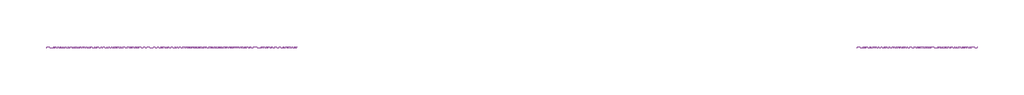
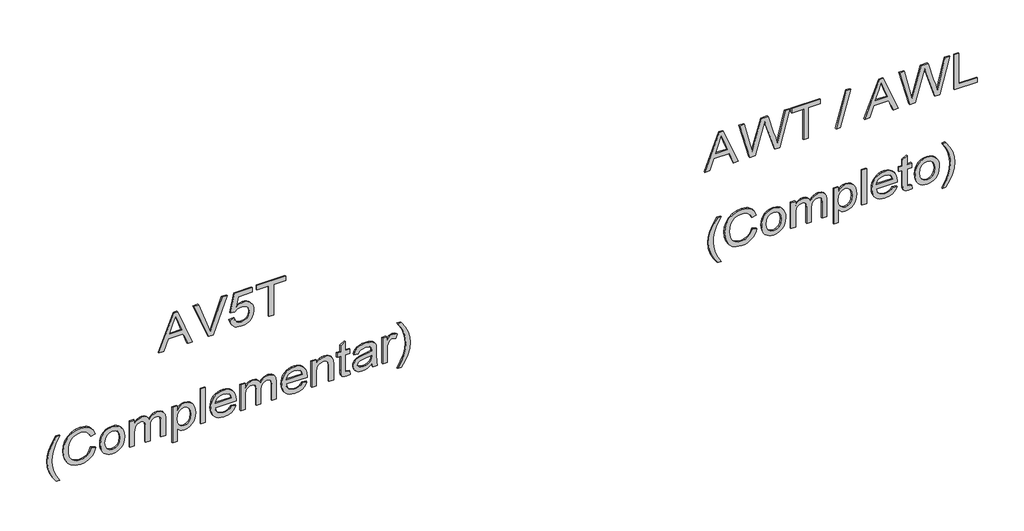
# One storey, part 13 of 14: 2 proxies.
"""IFC4 building model written with IfcOpenShell, lengths in millimetres."""

from ifc_helpers import new_model, si_unit, frame, origin, place, context, project, spatial, polyline, outline, extrude, element, save

model = new_model("IFC4")

# Units and contexts
model_context = context("Model", 3, world=origin())
ifc_project = project(units=[si_unit("LENGTHUNIT", "METRE", prefix="MILLI")], contexts=[model_context])

# Site, building, storey
site = spatial("IfcSite", under=ifc_project)
building = spatial("IfcBuilding", under=site)
storey = spatial("IfcBuildingStorey", under=building, Name="04 - Marelli - Planta Baixa - Painéis de Vidro", Elevation=36000.0)

# Proxies
placement = place(None, origin())
element("IfcBuildingElementProxy", 1, Name="300mm Arial", ObjectType="300mm Arial", at=placement, inside=storey, context=model_context, shape_type="SweptSolid", body=[
    extrude(outline(polyline([(42065.9244535, 113305.46327), (42065.9244535, 113345.2681019), (42160.1022443, 113379.7018566), (42160.1022443, 113503.8252418), (42065.9244535, 113538.3325729), (42065.9244535, 113578.1374048), (42367.293384, 113457.8399924), (42367.293384, 113425.7606824), (42065.9244535, 113305.46327)]), holes=[polyline([(42197.7733606, 113393.5342196), (42278.3395176, 113423.0383556), (42329.6222677, 113441.8003374), (42271.8647944, 113462.9167639), (42197.7733606, 113490.0664552), (42197.7733606, 113393.5342196)])]), frame((0.0, 8778.3159498, 0.0), z_axis=(0.0, 1.0, 0.0), x_axis=(0.0, 0.0, 1.0)), (0.0, 0.0, 1.0), 10.0),
    extrude(outline(polyline([(42065.9244535, 113707.4111379), (42065.9244535, 113746.333053), (42367.293384, 113861.1858119), (42367.293384, 113820.8659452), (42150.1694304, 113740.3733647), (42101.2411251, 113724.3337097), (42150.1694304, 113708.0733255), (42367.293384, 113627.8014742), (42367.293384, 113587.4816075), (42065.9244535, 113707.4111379)])), frame((0.0, 8778.3159498, 0.0), z_axis=(0.0, 1.0, 0.0), x_axis=(0.0, 0.0, 1.0)), (0.0, 0.0, 1.0), 10.0),
    extrude(outline(polyline([(42145.9755757, 113882.0815092), (42111.4222593, 113891.2693621), (42096.9805917, 113899.9950631), (42084.4289179, 113911.4752806), (42074.2730756, 113925.2731547), (42067.0189025, 113940.9518255), (42061.215564, 113977.9515572), (42063.4734397, 114001.4408226), (42070.247067, 114022.3181258), (42081.5364457, 114040.5834669), (42097.3415759, 114056.2368457), (42112.7742256, 114066.5697313), (42129.5680387, 114073.9503638), (42167.239155, 114079.8548698), (42187.5002559, 114078.2154957), (42205.8299763, 114073.2973733), (42222.2283162, 114065.1005026), (42236.6952757, 114053.6248836), (42248.5088863, 114039.7626301), (42256.9471795, 114024.4058561), (42262.0101555, 114007.5545615), (42263.6978141, 113989.2087462), (42258.2531606, 113961.0105913), (42241.9192, 113934.1000233), (42324.9133781, 113950.2132547), (42324.9133781, 114065.7282012), (42362.5844944, 114065.7282012), (42362.5844944, 113919.7526255), (42207.1911397, 113886.7903988), (42202.4822501, 113924.4615151), (42219.4783983, 113945.6147298), (42224.389623, 113960.4127831), (42226.0266978, 113978.6873212), (42221.9248136, 114006.5819734), (42209.6191609, 114026.4016159), (42190.2317797, 114038.2382191), (42164.8847102, 114042.1837535), (42137.9649452, 114037.9715047), (42116.9496863, 114025.3347582), (42103.4024318, 114005.1012484), (42098.8866803, 113978.09871), (42102.1332389, 113955.8970316), (42111.8729147, 113938.7353365), (42128.0689196, 113926.668807), (42150.6844652, 113919.7526255), (42145.9755757, 113882.0815092)])), frame((0.0, 8778.3159498, 0.0), z_axis=(0.0, 1.0, 0.0), x_axis=(0.0, 0.0, 1.0)), (0.0, 0.0, 1.0), 10.0),
    extrude(outline(polyline([(42065.9244535, 114202.2859978), (42065.9244535, 114239.9571141), (42329.6222677, 114239.9571141), (42329.6222677, 114338.8437944), (42367.293384, 114338.8437944), (42367.293384, 114103.3993175), (42329.6222677, 114103.3993175), (42329.6222677, 114202.2859978), (42065.9244535, 114202.2859978)])), frame((0.0, 8778.3159498, 0.0), z_axis=(0.0, 1.0, 0.0), x_axis=(0.0, 0.0, 1.0)), (0.0, 0.0, 1.0), 10.0),
    extrude(outline(polyline([(41249.3155348, 112469.4146478), (41249.3155348, 112497.667985), (41297.5540614, 112468.8260366), (41345.8109821, 112448.2246448), (41394.0862969, 112435.8638098), (41442.3800058, 112431.7435314), (41480.2534572, 112434.1163703), (41517.9429677, 112441.2348869), (41575.7740173, 112462.4248898), (41635.4444769, 112497.667985), (41635.4444769, 112469.4146478), (41584.934279, 112434.7233756), (41534.2033518, 112410.4063757), (41489.4137189, 112398.1559053), (41442.600735, 112394.0724151), (41389.2210575, 112399.5354628), (41337.68079, 112415.9246057), (41290.2791949, 112440.2232114), (41249.3155348, 112469.4146478)])), frame((0.0, 8778.3159498, 0.0), z_axis=(0.0, 1.0, 0.0), x_axis=(0.0, 0.0, 1.0)), (0.0, 0.0, 1.0), 10.0),
    extrude(outline(polyline([(41441.2027835, 112751.94802), (41408.9395325, 112739.761929), (41385.7261786, 112719.9790747), (41371.7098746, 112693.7766796), (41367.0377732, 112662.331966), (41370.4682728, 112635.3570187), (41380.7597717, 112610.3502401), (41397.9858461, 112589.491331), (41422.2200725, 112574.9599922), (41452.3128197, 112566.4343269), (41487.1144565, 112563.5924385), (41515.5333406, 112565.9928685), (41543.1060961, 112573.1941586), (41567.4966724, 112586.3183488), (41586.3690188, 112606.4874792), (41598.4539423, 112633.0669533), (41602.4822501, 112665.4221748), (41598.8494154, 112693.491571), (41587.9509113, 112716.3370429), (41569.1061561, 112734.1793197), (41541.6345681, 112747.2391305), (41550.6108888, 112784.9102468), (41588.4291579, 112768.2727836), (41603.751443, 112756.4706693), (41616.6824952, 112742.3463), (41626.9510013, 112726.16639), (41634.2856486, 112708.1976538), (41640.1533665, 112666.8937028), (41635.6192209, 112629.0386455), (41622.0167841, 112594.4945261), (41599.6771499, 112565.3674691), (41568.9314122, 112543.763599), (41530.9843844, 112530.3818914), (41487.0408801, 112525.9213222), (41445.3782441, 112529.8668566), (41406.4747231, 112541.7034598), (41373.3837376, 112561.0908409), (41349.1587083, 112587.6887092), (41334.3146698, 112622.3891784), (41329.3666569, 112666.0843624), (41331.0014325, 112688.50677), (41335.9057594, 112709.1265558), (41344.0796375, 112727.9437199), (41355.5230668, 112744.9582621), (41370.0796975, 112759.8344903), (41387.5931797, 112772.2367121), (41408.0635135, 112782.1649274), (41431.4906988, 112789.6191364), (41441.2027835, 112751.94802)])), frame((0.0, 8778.3159498, 0.0), z_axis=(0.0, 1.0, 0.0), x_axis=(0.0, 0.0, 1.0)), (0.0, 0.0, 1.0), 10.0),
    extrude(outline(polyline([(41444.7344506, 112827.2902527), (41418.4124939, 112828.9986047), (41395.3646869, 112834.1236607), (41375.5910296, 112842.6654208), (41359.0915221, 112854.6238849), (41346.0868936, 112869.350661), (41336.7978732, 112886.1973571), (41331.224461, 112905.1639733), (41329.3666569, 112926.2505094), (41332.7419742, 112952.8391806), (41342.8679261, 112977.2757421), (41359.1007192, 112997.8495427), (41380.7965599, 113012.849931), (41409.767267, 113022.0101927), (41447.8246594, 113025.0636133), (41472.7049786, 113023.3368672), (41494.7388108, 113018.1566288), (41513.9261561, 113009.5228982), (41530.2670145, 112997.4356754), (41543.3199275, 112982.6261259), (41552.6434368, 112965.825415), (41558.2375424, 112947.0335428), (41560.1022443, 112926.2505094), (41558.5709355, 112907.4241483), (41553.9770091, 112890.0877092), (41546.3204651, 112874.2411923), (41535.6013034, 112859.8845974), (41518.830483, 112845.6245716), (41498.095734, 112835.4388389), (41473.3970566, 112829.3273992), (41444.7344506, 112827.2902527)]), holes=[polyline([(41444.808027, 112864.961369), (41478.8830968, 112869.3207706), (41503.1173232, 112882.3989755), (41517.6026768, 112902.0806623), (41522.431128, 112926.2505094), (41517.5842827, 112950.1720361), (41503.0437468, 112969.8445258), (41479.0854319, 112983.0055042), (41445.9852494, 112987.392497), (41411.1468245, 112983.0330953), (41386.535519, 112969.9548904), (41371.9122097, 112950.3099918), (41367.0377732, 112926.2505094), (41371.8846185, 112902.0806623), (41386.4251544, 112882.3989755), (41410.7145631, 112869.3207706), (41444.808027, 112864.961369)])]), frame((0.0, 8778.3159498, 0.0), z_axis=(0.0, 1.0, 0.0), x_axis=(0.0, 0.0, 1.0)), (0.0, 0.0, 1.0), 10.0),
    extrude(outline(polyline([(41334.0755465, 113067.4436191), (41334.0755465, 113105.1147354), (41445.6909438, 113105.1147354), (41471.6082304, 113106.5494752), (41490.6461236, 113110.8536945), (41504.368122, 113118.3584872), (41514.3377241, 113129.3949471), (41520.407777, 113142.7674576), (41522.431128, 113157.2804023), (41519.3961015, 113174.359324), (41510.2910222, 113185.8648334), (41495.0974958, 113192.4039358), (41473.7971282, 113194.5836366), (41334.0755465, 113194.5836366), (41334.0755465, 113232.2547529), (41459.008272, 113232.2547529), (41487.7214617, 113235.94277), (41507.3479662, 113247.006821), (41518.6603375, 113263.6442842), (41522.431128, 113284.0525379), (41520.9596, 113295.6132296), (41516.5450161, 113305.5736346), (41509.7300021, 113313.3175506), (41501.0571841, 113318.2287752), (41469.6032735, 113321.7236542), (41334.0755465, 113321.7236542), (41334.0755465, 113359.3947705), (41485.7900813, 113359.3947705), (41518.7615051, 113355.0813541), (41541.8920855, 113342.1411049), (41555.5497046, 113321.1994223), (41560.1022443, 113292.8817058), (41557.366122, 113273.3563689), (41549.1577549, 113255.7624124), (41535.4771432, 113240.0998365), (41516.3242869, 113226.368641), (41534.7643719, 113218.1648725), (41548.5875379, 113205.6200965), (41557.2235677, 113188.8262834), (41560.1022443, 113167.8754038), (41557.27875, 113148.3224757), (41548.808267, 113131.0136279), (41535.702471, 113116.4455009), (41518.9730372, 113105.1147354), (41555.3933548, 113105.1147354), (41555.3933548, 113067.4436191), (41334.0755465, 113067.4436191)])), frame((0.0, 8778.3159498, 0.0), z_axis=(0.0, 1.0, 0.0), x_axis=(0.0, 0.0, 1.0)), (0.0, 0.0, 1.0), 10.0),
    extrude(outline(polyline([(41249.3155348, 113415.9014449), (41249.3155348, 113453.5725612), (41363.5061061, 113453.5725612), (41349.9956398, 113464.213548), (41339.0419534, 113477.4481027), (41331.785481, 113492.9083436), (41329.3666569, 113510.2263885), (41332.9810975, 113534.6445559), (41343.8244193, 113557.8671069), (41361.4459669, 113577.806311), (41385.3950848, 113592.374438), (41414.2094421, 113601.2863794), (41446.4267078, 113604.2570265), (41476.7217901, 113601.6266702), (41504.4784866, 113593.7356014), (41527.9861461, 113580.6757906), (41545.5341173, 113562.5392082), (41556.4602125, 113540.2639534), (41560.1022443, 113514.7881252), (41557.4994792, 113495.6582615), (41549.6911838, 113479.6186065), (41536.6773583, 113465.8598199), (41518.4580024, 113453.5725612), (41555.3933548, 113453.5725612), (41555.3933548, 113415.9014449), (41249.3155348, 113415.9014449)]), holes=[polyline([(41442.968617, 113453.5725612), (41477.1356573, 113457.9227658), (41502.0872537, 113470.9733796), (41517.3451594, 113489.670982), (41522.431128, 113510.9621525), (41517.6486621, 113532.1705495), (41503.3012642, 113550.1783732), (41479.3521464, 113562.4840259), (41445.7645202, 113566.5859102), (41410.7237602, 113562.3828584), (41386.2412134, 113549.773703), (41371.8386333, 113531.2784357), (41367.0377732, 113509.4170481), (41371.6730864, 113487.9051484), (41385.5790258, 113469.8697336), (41409.1970499, 113457.6468543), (41442.968617, 113453.5725612)])]), frame((0.0, 8778.3159498, 0.0), z_axis=(0.0, 1.0, 0.0), x_axis=(0.0, 0.0, 1.0)), (0.0, 0.0, 1.0), 10.0),
    extrude(outline(polyline([(113684.3081486, 8778.3159498), (113646.6370323, 8778.3159498), (113646.6370323, 8788.3159498), (113684.3081486, 8788.3159498), (113684.3081486, 8778.3159498)])), frame((0.0, 0.0, 41334.0755465), z_axis=(0.0, 0.0, 1.0), x_axis=(1.0, 0.0, 0.0)), (0.0, 0.0, 1.0), 301.3689304),
    extrude(outline(polyline([(41400.0, 113895.7667195), (41385.1191733, 113885.2085062), (41374.9104479, 113871.4865078), (41369.0059419, 113854.6007242), (41367.0377732, 113834.5511555), (41371.2868103, 113807.8889079), (41384.0339214, 113786.0275203), (41404.7640718, 113770.8799791), (41432.9622268, 113764.3592708), (41432.9622268, 113933.658565), (41443.1157698, 113933.8792942), (41469.3687487, 113932.0927672), (41492.5039277, 113926.7331864), (41512.5213067, 113917.8005517), (41529.4208859, 113905.2948631), (41542.8439802, 113889.9748773), (41552.4319047, 113872.5993508), (41558.1846594, 113853.1682837), (41560.1022443, 113831.6816759), (41558.1800609, 113809.4799975), (41552.4135106, 113789.4488228), (41542.8025935, 113771.588152), (41529.3473095, 113755.8979849), (41512.4109422, 113743.1186841), (41492.3567749, 113733.9906121), (41469.1848077, 113728.5137689), (41442.8950406, 113726.6881545), (41417.467497, 113728.4953748), (41395.0427901, 113733.9170357), (41375.62092, 113742.9531372), (41359.2018867, 113755.6036793), (41346.1489737, 113771.3352331), (41336.8254644, 113789.6143697), (41331.2313588, 113810.4410892), (41329.3666569, 113833.8153915), (41333.6892704, 113869.4723538), (41346.6571107, 113898.1579524), (41367.4608375, 113919.3939406), (41395.2911105, 113932.7020718), (41400.0, 113895.7667195)]), holes=[polyline([(41470.6333431, 113764.3592708), (41491.8693312, 113770.5488853), (41508.3412476, 113785.1446035), (41518.9086579, 113806.1414684), (41522.431128, 113831.5345231), (41518.0165441, 113859.1624609), (41504.7727922, 113881.125016), (41490.535759, 113891.1130122), (41470.6333431, 113896.2081778), (41470.6333431, 113764.3592708)])]), frame((0.0, 8778.3159498, 0.0), z_axis=(0.0, 1.0, 0.0), x_axis=(0.0, 0.0, 1.0)), (0.0, 0.0, 1.0), 10.0),
    extrude(outline(polyline([(41334.0755465, 113971.5504105), (41334.0755465, 114009.2215268), (41445.6909438, 114009.2215268), (41471.6082304, 114010.6562665), (41490.6461236, 114014.9604859), (41504.368122, 114022.4652786), (41514.3377241, 114033.5017384), (41520.407777, 114046.874249), (41522.431128, 114061.3871937), (41519.3961015, 114078.4661153), (41510.2910222, 114089.9716247), (41495.0974958, 114096.5107272), (41473.7971282, 114098.690428), (41334.0755465, 114098.690428), (41334.0755465, 114136.3615443), (41459.008272, 114136.3615443), (41487.7214617, 114140.0495613), (41507.3479662, 114151.1136123), (41518.6603375, 114167.7510755), (41522.431128, 114188.1593292), (41520.9596, 114199.7200209), (41516.5450161, 114209.6804259), (41509.7300021, 114217.4243419), (41501.0571841, 114222.3355666), (41469.6032735, 114225.8304455), (41334.0755465, 114225.8304455), (41334.0755465, 114263.5015618), (41485.7900813, 114263.5015618), (41518.7615051, 114259.1881454), (41541.8920855, 114246.2478963), (41555.5497046, 114225.3062137), (41560.1022443, 114196.9884971), (41557.366122, 114177.4631602), (41549.1577549, 114159.8692038), (41535.4771432, 114144.2066278), (41516.3242869, 114130.4754324), (41534.7643719, 114122.2716639), (41548.5875379, 114109.7268878), (41557.2235677, 114092.9330748), (41560.1022443, 114071.9821951), (41557.27875, 114052.4292671), (41548.808267, 114035.1204192), (41535.702471, 114020.5522922), (41518.9730372, 114009.2215268), (41555.3933548, 114009.2215268), (41555.3933548, 113971.5504105), (41334.0755465, 113971.5504105)])), frame((0.0, 8778.3159498, 0.0), z_axis=(0.0, 1.0, 0.0), x_axis=(0.0, 0.0, 1.0)), (0.0, 0.0, 1.0), 10.0),
    extrude(outline(polyline([(41400.0, 114474.9601327), (41385.1191733, 114464.4019194), (41374.9104479, 114450.679921), (41369.0059419, 114433.7941374), (41367.0377732, 114413.7445687), (41371.2868103, 114387.0823211), (41384.0339214, 114365.2209335), (41404.7640718, 114350.0733923), (41432.9622268, 114343.552684), (41432.9622268, 114512.8519782), (41443.1157698, 114513.0727074), (41469.3687487, 114511.2861804), (41492.5039277, 114505.9265996), (41512.5213067, 114496.9939649), (41529.4208859, 114484.4882763), (41542.8439802, 114469.1682905), (41552.4319047, 114451.792764), (41558.1846594, 114432.3616969), (41560.1022443, 114410.8750891), (41558.1800609, 114388.6734107), (41552.4135106, 114368.6422361), (41542.8025935, 114350.7815652), (41529.3473095, 114335.0913981), (41512.4109422, 114322.3120973), (41492.3567749, 114313.1840253), (41469.1848077, 114307.7071821), (41442.8950406, 114305.8815677), (41417.467497, 114307.688788), (41395.0427901, 114313.1104489), (41375.62092, 114322.1465504), (41359.2018867, 114334.7970925), (41346.1489737, 114350.5286463), (41336.8254644, 114368.8077829), (41331.2313588, 114389.6345024), (41329.3666569, 114413.0088047), (41333.6892704, 114448.6657671), (41346.6571107, 114477.3513656), (41367.4608375, 114498.5873538), (41395.2911105, 114511.895485), (41400.0, 114474.9601327)]), holes=[polyline([(41470.6333431, 114343.552684), (41491.8693312, 114349.7422985), (41508.3412476, 114364.3380167), (41518.9086579, 114385.3348816), (41522.431128, 114410.7279363), (41518.0165441, 114438.3558741), (41504.7727922, 114460.3184292), (41490.535759, 114470.3064254), (41470.6333431, 114475.4015911), (41470.6333431, 114343.552684)])]), frame((0.0, 8778.3159498, 0.0), z_axis=(0.0, 1.0, 0.0), x_axis=(0.0, 0.0, 1.0)), (0.0, 0.0, 1.0), 10.0),
    extrude(outline(polyline([(41334.0755465, 114550.7438237), (41334.0755465, 114588.41494), (41451.5034793, 114588.41494), (41486.2131456, 114592.7099623), (41498.5877762, 114598.0787401), (41507.6422718, 114605.5950291), (41518.7339139, 114624.4029961), (41522.431128, 114646.4667188), (41520.7848561, 114660.3634612), (41515.8460403, 114672.3288231), (41508.1481095, 114681.6638287), (41498.2244927, 114687.6695023), (41464.8943839, 114692.0105098), (41334.0755465, 114692.0105098), (41334.0755465, 114729.6816261), (41469.9711555, 114729.6816261), (41506.391473, 114727.6950633), (41534.0929872, 114716.4010861), (41544.6328064, 114706.3027253), (41552.9285454, 114692.1208744), (41558.3088196, 114675.1155292), (41560.1022443, 114656.5466855), (41557.8765582, 114635.5682147), (41551.1995, 114617.2201002), (41540.0710697, 114601.5023419), (41524.4912672, 114588.41494), (41555.3933548, 114588.41494), (41555.3933548, 114550.7438237), (41334.0755465, 114550.7438237)])), frame((0.0, 8778.3159498, 0.0), z_axis=(0.0, 1.0, 0.0), x_axis=(0.0, 0.0, 1.0)), (0.0, 0.0, 1.0), 10.0),
    extrude(outline(polyline([(41365.4926689, 114861.5305332), (41367.0377732, 114845.1229962), (41369.576159, 114832.2839146), (41376.4555523, 114825.8459797), (41395.8797217, 114823.8594169), (41517.7222385, 114823.8594169), (41517.7222385, 114861.5305332), (41555.3933548, 114861.5305332), (41555.3933548, 114823.8594169), (41631.3241986, 114823.8594169), (41609.1777025, 114786.1883006), (41555.3933548, 114786.1883006), (41555.3933548, 114757.9349633), (41517.7222385, 114757.9349633), (41517.7222385, 114786.1883006), (41394.7760757, 114786.1883006), (41367.7919313, 114787.3287348), (41352.0281878, 114790.7500373), (41342.849532, 114796.967243), (41335.6206508, 114806.4953867), (41330.9301554, 114819.9782618), (41329.3666569, 114838.0596619), (41332.9719005, 114866.2394227), (41365.4926689, 114861.5305332)])), frame((0.0, 8778.3159498, 0.0), z_axis=(0.0, 1.0, 0.0), x_axis=(0.0, 0.0, 1.0)), (0.0, 0.0, 1.0), 10.0),
    extrude(outline(polyline([(41362.3288837, 115040.4683356), (41334.0755465, 115049.8861147), (41334.0755465, 115087.557231), (41365.7501862, 115080.0524383), (41431.1963932, 115078.1394519), (41478.0645594, 115078.1394519), (41511.0267861, 115076.300042), (41525.1442577, 115071.7566993), (41536.5945848, 115064.7485473), (41545.856014, 115054.181137), (41553.406792, 115038.9600195), (41558.4283812, 115018.772495), (41560.1022443, 114993.3058639), (41558.207652, 114966.7539809), (41552.5238752, 114943.6050063), (41543.3452194, 114924.6774777), (41530.9659903, 114910.7899323), (41514.7791825, 114901.0318624), (41494.1777908, 114894.49276), (41489.4689012, 114932.1638763), (41505.1314772, 114939.6502749), (41515.1838527, 114950.3372468), (41520.6193092, 114966.0090198), (41522.431128, 114988.4498215), (41519.7088012, 115012.693245), (41511.5418209, 115030.0940634), (41500.5421493, 115037.8747676), (41483.7299421, 115040.4683356), (41475.3422326, 115040.2476064), (41468.3524747, 115013.429009), (41462.3927864, 114974.9117641), (41456.7274037, 114942.3174193), (41444.3665686, 114915.9402803), (41434.8752131, 114905.3360818), (41422.7351073, 114896.9943575), (41408.5532564, 114891.5864922), (41392.9366657, 114889.7838704), (41367.6079903, 114894.5571393), (41347.2457219, 114908.876946), (41333.8364232, 114932.0994969), (41329.3666569, 114963.5809987), (41331.224461, 114984.4491048), (41336.7978732, 115003.9376535), (41346.896234, 115022.469709), (41362.3288837, 115040.4683356)]), holes=[polyline([(41437.6711163, 115040.4683356), (41427.0025384, 115040.2476064), (41410.0799667, 115038.7576844), (41397.8662844, 115034.2879181), (41386.0112871, 115024.2079515), (41376.0508821, 115009.7134008), (41369.2910505, 114991.8343359), (41367.0377732, 114971.6008261), (41369.0795183, 114952.5169476), (41375.2047535, 114938.6753876), (41384.3834093, 114930.2600869), (41395.5854161, 114927.4549867), (41410.0799667, 114932.6053347), (41420.0127805, 114947.2838263), (41426.1196217, 114979.69423), (41437.6711163, 115040.4683356)])]), frame((0.0, 8778.3159498, 0.0), z_axis=(0.0, 1.0, 0.0), x_axis=(0.0, 0.0, 1.0)), (0.0, 0.0, 1.0), 10.0),
    extrude(outline(polyline([(41334.0755465, 115129.9372369), (41334.0755465, 115167.6083532), (41450.3998333, 115167.6083532), (41473.3556698, 115169.1350635), (41494.39852, 115173.7151943), (41506.1339556, 115179.1690449), (41514.9999117, 115187.2900399), (41520.5733239, 115197.3424154), (41522.431128, 115208.5904074), (41520.4997475, 115221.8341593), (41514.7056061, 115235.0779111), (41548.4771733, 115247.6594753), (41557.1959765, 115228.603188), (41560.1022443, 115209.8412062), (41558.2812284, 115197.5539476), (41552.8181808, 115186.2967585), (41541.6345681, 115175.0763577), (41522.6518572, 115162.8994636), (41555.3933548, 115162.8994636), (41555.3933548, 115129.9372369), (41334.0755465, 115129.9372369)])), frame((0.0, 8778.3159498, 0.0), z_axis=(0.0, 1.0, 0.0), x_axis=(0.0, 0.0, 1.0)), (0.0, 0.0, 1.0), 10.0),
    extrude(outline(polyline([(41249.3155348, 115280.6217021), (41290.2791949, 115309.6751827), (41337.68079, 115334.0013796), (41389.2210575, 115350.4732959), (41442.600735, 115355.9639347), (41489.4137189, 115351.8804446), (41534.2033518, 115339.6299741), (41584.934279, 115315.3129742), (41635.4444769, 115280.6217021), (41635.4444769, 115252.3683649), (41575.1854061, 115287.8321892), (41546.8400984, 115299.8067481), (41517.2807801, 115308.8014629), (41479.9775458, 115315.9199795), (41442.3800058, 115318.2928184), (41394.0862969, 115314.1725401), (41345.8109821, 115301.811705), (41297.5540614, 115281.2103133), (41249.3155348, 115252.3683649), (41249.3155348, 115280.6217021)])), frame((0.0, 8778.3159498, 0.0), z_axis=(0.0, 1.0, 0.0), x_axis=(0.0, 0.0, 1.0)), (0.0, 0.0, 1.0), 10.0),
])
element("IfcBuildingElementProxy", 2, Name="300mm Arial", ObjectType="300mm Arial", at=placement, inside=storey, context=model_context, shape_type="SweptSolid", body=[
    extrude(outline(polyline([(42065.9244535, 117756.8776388), (42065.9244535, 117796.6824707), (42160.1022443, 117831.1162254), (42160.1022443, 117955.2396106), (42065.9244535, 117989.7469417), (42065.9244535, 118029.5517736), (42367.293384, 117909.2543612), (42367.293384, 117877.1750512), (42065.9244535, 117756.8776388)]), holes=[polyline([(42197.7733606, 117844.9485884), (42278.3395176, 117874.4527244), (42329.6222677, 117893.2147062), (42271.8647944, 117914.3311327), (42197.7733606, 117941.480824), (42197.7733606, 117844.9485884)])]), frame((0.0, 8778.3159498, 0.0), z_axis=(0.0, 1.0, 0.0), x_axis=(0.0, 0.0, 1.0)), (0.0, 0.0, 1.0), 10.0),
    extrude(outline(polyline([(42065.9244535, 118123.7295644), (42065.9244535, 118169.199779), (42291.8039986, 118235.0506561), (42330.8730665, 118246.3814216), (42298.4258745, 118256.4613882), (42065.9244535, 118328.7134121), (42065.9244535, 118368.9597024), (42367.293384, 118451.2181165), (42367.293384, 118412.3697778), (42167.4598842, 118364.2508128), (42108.0837302, 118349.9769914), (42163.4131823, 118336.2733871), (42218.5954815, 118317.6769522), (42367.293384, 118274.2668768), (42367.293384, 118218.2752371), (42162.1623835, 118158.5312011), (42108.0837302, 118142.7858517), (42169.2257178, 118128.0705719), (42367.293384, 118080.3930653), (42367.293384, 118041.5447266), (42065.9244535, 118123.7295644)])), frame((0.0, 8778.3159498, 0.0), z_axis=(0.0, 1.0, 0.0), x_axis=(0.0, 0.0, 1.0)), (0.0, 0.0, 1.0), 10.0),
    extrude(outline(polyline([(42065.9244535, 118564.2314654), (42065.9244535, 118601.9025817), (42329.6222677, 118601.9025817), (42329.6222677, 118700.789262), (42367.293384, 118700.789262), (42367.293384, 118465.3447851), (42329.6222677, 118465.3447851), (42329.6222677, 118564.2314654), (42065.9244535, 118564.2314654)])), frame((0.0, 8778.3159498, 0.0), z_axis=(0.0, 1.0, 0.0), x_axis=(0.0, 0.0, 1.0)), (0.0, 0.0, 1.0), 10.0),
    extrude(outline(polyline([(42065.9244535, 118827.9292795), (42065.9244535, 118861.9215759), (42367.293384, 118946.6815876), (42367.293384, 118912.6892912), (42065.9244535, 118827.9292795)])), frame((0.0, 8778.3159498, 0.0), z_axis=(0.0, 1.0, 0.0), x_axis=(0.0, 0.0, 1.0)), (0.0, 0.0, 1.0), 10.0),
    extrude(outline(polyline([(42065.9244535, 119061.2400409), (42065.9244535, 119101.0448728), (42160.1022443, 119135.4786275), (42160.1022443, 119259.6020127), (42065.9244535, 119294.1093438), (42065.9244535, 119333.9141757), (42367.293384, 119213.6167633), (42367.293384, 119181.5374533), (42065.9244535, 119061.2400409)]), holes=[polyline([(42197.7733606, 119149.3109905), (42278.3395176, 119178.8151265), (42329.6222677, 119197.5771083), (42271.8647944, 119218.6935348), (42197.7733606, 119245.8432261), (42197.7733606, 119149.3109905)])]), frame((0.0, 8778.3159498, 0.0), z_axis=(0.0, 1.0, 0.0), x_axis=(0.0, 0.0, 1.0)), (0.0, 0.0, 1.0), 10.0),
    extrude(outline(polyline([(42065.9244535, 119428.0919665), (42065.9244535, 119473.5621811), (42291.8039986, 119539.4130582), (42330.8730665, 119550.7438237), (42298.4258745, 119560.8237903), (42065.9244535, 119633.0758142), (42065.9244535, 119673.3221045), (42367.293384, 119755.5805186), (42367.293384, 119716.7321799), (42167.4598842, 119668.6132149), (42108.0837302, 119654.3393935), (42163.4131823, 119640.6357892), (42218.5954815, 119622.0393543), (42367.293384, 119578.6292789), (42367.293384, 119522.6376392), (42162.1623835, 119462.8936032), (42108.0837302, 119447.1482538), (42169.2257178, 119432.432974), (42367.293384, 119384.7554674), (42367.293384, 119345.9071287), (42065.9244535, 119428.0919665)])), frame((0.0, 8778.3159498, 0.0), z_axis=(0.0, 1.0, 0.0), x_axis=(0.0, 0.0, 1.0)), (0.0, 0.0, 1.0), 10.0),
    extrude(outline(polyline([(42065.9244535, 119793.2516349), (42065.9244535, 119981.6072164), (42103.5955698, 119981.6072164), (42103.5955698, 119830.9227512), (42367.293384, 119830.9227512), (42367.293384, 119793.2516349), (42065.9244535, 119793.2516349)])), frame((0.0, 8778.3159498, 0.0), z_axis=(0.0, 1.0, 0.0), x_axis=(0.0, 0.0, 1.0)), (0.0, 0.0, 1.0), 10.0),
    extrude(outline(polyline([(41249.3155348, 117862.6069242), (41249.3155348, 117890.8602614), (41297.5540614, 117862.018313), (41345.8109821, 117841.4169213), (41394.0862969, 117829.0560862), (41442.3800058, 117824.9358079), (41480.2534572, 117827.3086468), (41517.9429677, 117834.4271634), (41575.7740173, 117855.6171663), (41635.4444769, 117890.8602614), (41635.4444769, 117862.6069242), (41584.934279, 117827.9156521), (41534.2033518, 117803.5986522), (41489.4137189, 117791.3481817), (41442.600735, 117787.2646916), (41389.2210575, 117792.7277392), (41337.68079, 117809.1168821), (41290.2791949, 117833.4154879), (41249.3155348, 117862.6069242)])), frame((0.0, 8778.3159498, 0.0), z_axis=(0.0, 1.0, 0.0), x_axis=(0.0, 0.0, 1.0)), (0.0, 0.0, 1.0), 10.0),
    extrude(outline(polyline([(41441.2027835, 118145.1402965), (41408.9395325, 118132.9542054), (41385.7261786, 118113.1713511), (41371.7098746, 118086.968956), (41367.0377732, 118055.5242425), (41370.4682728, 118028.5492952), (41380.7597717, 118003.5425165), (41397.9858461, 117982.6836074), (41422.2200725, 117968.1522686), (41452.3128197, 117959.6266034), (41487.1144565, 117956.784715), (41515.5333406, 117959.185145), (41543.1060961, 117966.386435), (41567.4966724, 117979.5106252), (41586.3690188, 117999.6797556), (41598.4539423, 118026.2592298), (41602.4822501, 118058.6144512), (41598.8494154, 118086.6838475), (41587.9509113, 118109.5293194), (41569.1061561, 118127.3715961), (41541.6345681, 118140.431407), (41550.6108888, 118178.1025233), (41588.4291579, 118161.46506), (41603.751443, 118149.6629458), (41616.6824952, 118135.5385764), (41626.9510013, 118119.3586664), (41634.2856486, 118101.3899302), (41640.1533665, 118060.0859792), (41635.6192209, 118022.2309219), (41622.0167841, 117987.6868026), (41599.6771499, 117958.5597456), (41568.9314122, 117936.9558754), (41530.9843844, 117923.5741678), (41487.0408801, 117919.1135987), (41445.3782441, 117923.0591331), (41406.4747231, 117934.8957362), (41373.3837376, 117954.2831174), (41349.1587083, 117980.8809856), (41334.3146698, 118015.5814548), (41329.3666569, 118059.2766388), (41331.0014325, 118081.6990464), (41335.9057594, 118102.3188323), (41344.0796375, 118121.1359963), (41355.5230668, 118138.1505386), (41370.0796975, 118153.0267668), (41387.5931797, 118165.4289885), (41408.0635135, 118175.3572039), (41431.4906988, 118182.8114128), (41441.2027835, 118145.1402965)])), frame((0.0, 8778.3159498, 0.0), z_axis=(0.0, 1.0, 0.0), x_axis=(0.0, 0.0, 1.0)), (0.0, 0.0, 1.0), 10.0),
    extrude(outline(polyline([(41444.7344506, 118220.4825291), (41418.4124939, 118222.1908811), (41395.3646869, 118227.3159372), (41375.5910296, 118235.8576972), (41359.0915221, 118247.8161613), (41346.0868936, 118262.5429375), (41336.7978732, 118279.3896336), (41331.224461, 118298.3562497), (41329.3666569, 118319.4427858), (41332.7419742, 118346.031457), (41342.8679261, 118370.4680185), (41359.1007192, 118391.0418191), (41380.7965599, 118406.0422075), (41409.767267, 118415.2024692), (41447.8246594, 118418.2558897), (41472.7049786, 118416.5291436), (41494.7388108, 118411.3489053), (41513.9261561, 118402.7151747), (41530.2670145, 118390.6279519), (41543.3199275, 118375.8184023), (41552.6434368, 118359.0176914), (41558.2375424, 118340.2258193), (41560.1022443, 118319.4427858), (41558.5709355, 118300.6164247), (41553.9770091, 118283.2799857), (41546.3204651, 118267.4334687), (41535.6013034, 118253.0768739), (41518.830483, 118238.816848), (41498.095734, 118228.6311153), (41473.3970566, 118222.5196757), (41444.7344506, 118220.4825291)]), holes=[polyline([(41444.808027, 118258.1536454), (41478.8830968, 118262.5130471), (41503.1173232, 118275.591252), (41517.6026768, 118295.2729387), (41522.431128, 118319.4427858), (41517.5842827, 118343.3643125), (41503.0437468, 118363.0368022), (41479.0854319, 118376.1977806), (41445.9852494, 118380.5847734), (41411.1468245, 118376.2253718), (41386.535519, 118363.1471668), (41371.9122097, 118343.5022683), (41367.0377732, 118319.4427858), (41371.8846185, 118295.2729387), (41386.4251544, 118275.591252), (41410.7145631, 118262.5130471), (41444.808027, 118258.1536454)])]), frame((0.0, 8778.3159498, 0.0), z_axis=(0.0, 1.0, 0.0), x_axis=(0.0, 0.0, 1.0)), (0.0, 0.0, 1.0), 10.0),
    extrude(outline(polyline([(41334.0755465, 118460.6358956), (41334.0755465, 118498.3070119), (41445.6909438, 118498.3070119), (41471.6082304, 118499.7417516), (41490.6461236, 118504.045971), (41504.368122, 118511.5507637), (41514.3377241, 118522.5872235), (41520.407777, 118535.9597341), (41522.431128, 118550.4726788), (41519.3961015, 118567.5516004), (41510.2910222, 118579.0571098), (41495.0974958, 118585.5962123), (41473.7971282, 118587.7759131), (41334.0755465, 118587.7759131), (41334.0755465, 118625.4470294), (41459.008272, 118625.4470294), (41487.7214617, 118629.1350464), (41507.3479662, 118640.1990974), (41518.6603375, 118656.8365606), (41522.431128, 118677.2448143), (41520.9596, 118688.805506), (41516.5450161, 118698.765911), (41509.7300021, 118706.509827), (41501.0571841, 118711.4210517), (41469.6032735, 118714.9159306), (41334.0755465, 118714.9159306), (41334.0755465, 118752.5870469), (41485.7900813, 118752.5870469), (41518.7615051, 118748.2736305), (41541.8920855, 118735.3333814), (41555.5497046, 118714.3916988), (41560.1022443, 118686.0739822), (41557.366122, 118666.5486453), (41549.1577549, 118648.9546889), (41535.4771432, 118633.2921129), (41516.3242869, 118619.5609175), (41534.7643719, 118611.357149), (41548.5875379, 118598.8123729), (41557.2235677, 118582.0185599), (41560.1022443, 118561.0676802), (41557.27875, 118541.5147522), (41548.808267, 118524.2059043), (41535.702471, 118509.6377773), (41518.9730372, 118498.3070119), (41555.3933548, 118498.3070119), (41555.3933548, 118460.6358956), (41334.0755465, 118460.6358956)])), frame((0.0, 8778.3159498, 0.0), z_axis=(0.0, 1.0, 0.0), x_axis=(0.0, 0.0, 1.0)), (0.0, 0.0, 1.0), 10.0),
    extrude(outline(polyline([(41249.3155348, 118809.0937214), (41249.3155348, 118846.7648377), (41363.5061061, 118846.7648377), (41349.9956398, 118857.4058244), (41339.0419534, 118870.6403792), (41331.785481, 118886.10062), (41329.3666569, 118903.4186649), (41332.9810975, 118927.8368324), (41343.8244193, 118951.0593833), (41361.4459669, 118970.9985875), (41385.3950848, 118985.5667145), (41414.2094421, 118994.4786558), (41446.4267078, 118997.4493029), (41476.7217901, 118994.8189467), (41504.4784866, 118986.9278779), (41527.9861461, 118973.868067), (41545.5341173, 118955.7314847), (41556.4602125, 118933.4562299), (41560.1022443, 118907.9804017), (41557.4994792, 118888.8505379), (41549.6911838, 118872.810883), (41536.6773583, 118859.0520963), (41518.4580024, 118846.7648377), (41555.3933548, 118846.7648377), (41555.3933548, 118809.0937214), (41249.3155348, 118809.0937214)]), holes=[polyline([(41442.968617, 118846.7648377), (41477.1356573, 118851.1150423), (41502.0872537, 118864.1656561), (41517.3451594, 118882.8632585), (41522.431128, 118904.1544289), (41517.6486621, 118925.362826), (41503.3012642, 118943.3706496), (41479.3521464, 118955.6763024), (41445.7645202, 118959.7781866), (41410.7237602, 118955.5751348), (41386.2412134, 118942.9659794), (41371.8386333, 118924.4707121), (41367.0377732, 118902.6093246), (41371.6730864, 118881.0974249), (41385.5790258, 118863.0620101), (41409.1970499, 118850.8391308), (41442.968617, 118846.7648377)])]), frame((0.0, 8778.3159498, 0.0), z_axis=(0.0, 1.0, 0.0), x_axis=(0.0, 0.0, 1.0)), (0.0, 0.0, 1.0), 10.0),
    extrude(outline(polyline([(119077.5004251, 8778.3159498), (119039.8293088, 8778.3159498), (119039.8293088, 8788.3159498), (119077.5004251, 8788.3159498), (119077.5004251, 8778.3159498)])), frame((0.0, 0.0, 41334.0755465), z_axis=(0.0, 0.0, 1.0), x_axis=(1.0, 0.0, 0.0)), (0.0, 0.0, 1.0), 301.3689304),
    extrude(outline(polyline([(41400.0, 119288.9589959), (41385.1191733, 119278.4007826), (41374.9104479, 119264.6787842), (41369.0059419, 119247.7930006), (41367.0377732, 119227.7434319), (41371.2868103, 119201.0811843), (41384.0339214, 119179.2197967), (41404.7640718, 119164.0722556), (41432.9622268, 119157.5515472), (41432.9622268, 119326.8508414), (41443.1157698, 119327.0715706), (41469.3687487, 119325.2850437), (41492.5039277, 119319.9254628), (41512.5213067, 119310.9928281), (41529.4208859, 119298.4871396), (41542.8439802, 119283.1671537), (41552.4319047, 119265.7916272), (41558.1846594, 119246.3605601), (41560.1022443, 119224.8739523), (41558.1800609, 119202.6722739), (41552.4135106, 119182.6410993), (41542.8025935, 119164.7804284), (41529.3473095, 119149.0902613), (41512.4109422, 119136.3109605), (41492.3567749, 119127.1828885), (41469.1848077, 119121.7060453), (41442.8950406, 119119.8804309), (41417.467497, 119121.6876512), (41395.0427901, 119127.1093121), (41375.62092, 119136.1454136), (41359.2018867, 119148.7959557), (41346.1489737, 119164.5275096), (41336.8254644, 119182.8066462), (41331.2313588, 119203.6333656), (41329.3666569, 119227.0076679), (41333.6892704, 119262.6646303), (41346.6571107, 119291.3502289), (41367.4608375, 119312.586217), (41395.2911105, 119325.8943482), (41400.0, 119288.9589959)]), holes=[polyline([(41470.6333431, 119157.5515472), (41491.8693312, 119163.7411618), (41508.3412476, 119178.3368799), (41518.9086579, 119199.3337448), (41522.431128, 119224.7267995), (41518.0165441, 119252.3547374), (41504.7727922, 119274.3172925), (41490.535759, 119284.3052887), (41470.6333431, 119289.4004543), (41470.6333431, 119157.5515472)])]), frame((0.0, 8778.3159498, 0.0), z_axis=(0.0, 1.0, 0.0), x_axis=(0.0, 0.0, 1.0)), (0.0, 0.0, 1.0), 10.0),
    extrude(outline(polyline([(41365.4926689, 119444.7938091), (41367.0377732, 119428.3862721), (41369.576159, 119415.5471904), (41376.4555523, 119409.1092555), (41395.8797217, 119407.1226927), (41517.7222385, 119407.1226927), (41517.7222385, 119444.7938091), (41555.3933548, 119444.7938091), (41555.3933548, 119407.1226927), (41631.3241986, 119407.1226927), (41609.1777025, 119369.4515764), (41555.3933548, 119369.4515764), (41555.3933548, 119341.1982392), (41517.7222385, 119341.1982392), (41517.7222385, 119369.4515764), (41394.7760757, 119369.4515764), (41367.7919313, 119370.5920106), (41352.0281878, 119374.0133132), (41342.849532, 119380.2305189), (41335.6206508, 119389.7586626), (41330.9301554, 119403.2415377), (41329.3666569, 119421.3229378), (41332.9719005, 119449.5026986), (41365.4926689, 119444.7938091)])), frame((0.0, 8778.3159498, 0.0), z_axis=(0.0, 1.0, 0.0), x_axis=(0.0, 0.0, 1.0)), (0.0, 0.0, 1.0), 10.0),
    extrude(outline(polyline([(41444.7344506, 119473.0471463), (41418.4124939, 119474.7554983), (41395.3646869, 119479.8805543), (41375.5910296, 119488.4223144), (41359.0915221, 119500.3807785), (41346.0868936, 119515.1075546), (41336.7978732, 119531.9542508), (41331.224461, 119550.9208669), (41329.3666569, 119572.007403), (41332.7419742, 119598.5960742), (41342.8679261, 119623.0326357), (41359.1007192, 119643.6064363), (41380.7965599, 119658.6068246), (41409.767267, 119667.7670863), (41447.8246594, 119670.8205069), (41472.7049786, 119669.0937608), (41494.7388108, 119663.9135224), (41513.9261561, 119655.2797919), (41530.2670145, 119643.1925691), (41543.3199275, 119628.3830195), (41552.6434368, 119611.5823086), (41558.2375424, 119592.7904364), (41560.1022443, 119572.007403), (41558.5709355, 119553.1810419), (41553.9770091, 119535.8446029), (41546.3204651, 119519.9980859), (41535.6013034, 119505.6414911), (41518.830483, 119491.3814652), (41498.095734, 119481.1957325), (41473.3970566, 119475.0842928), (41444.7344506, 119473.0471463)]), holes=[polyline([(41444.808027, 119510.7182626), (41478.8830968, 119515.0776642), (41503.1173232, 119528.1558692), (41517.6026768, 119547.8375559), (41522.431128, 119572.007403), (41517.5842827, 119595.9289297), (41503.0437468, 119615.6014194), (41479.0854319, 119628.7623978), (41445.9852494, 119633.1493906), (41411.1468245, 119628.7899889), (41386.535519, 119615.711784), (41371.9122097, 119596.0668855), (41367.0377732, 119572.007403), (41371.8846185, 119547.8375559), (41386.4251544, 119528.1558692), (41410.7145631, 119515.0776642), (41444.808027, 119510.7182626)])]), frame((0.0, 8778.3159498, 0.0), z_axis=(0.0, 1.0, 0.0), x_axis=(0.0, 0.0, 1.0)), (0.0, 0.0, 1.0), 10.0),
    extrude(outline(polyline([(41249.3155348, 119722.6182918), (41290.2791949, 119751.6717724), (41337.68079, 119775.9979693), (41389.2210575, 119792.4698856), (41442.600735, 119797.9605244), (41489.4137189, 119793.8770343), (41534.2033518, 119781.6265638), (41584.934279, 119757.309564), (41635.4444769, 119722.6182918), (41635.4444769, 119694.3649546), (41575.1854061, 119729.8287789), (41546.8400984, 119741.8033379), (41517.2807801, 119750.7980526), (41479.9775458, 119757.9165692), (41442.3800058, 119760.2894081), (41394.0862969, 119756.1691298), (41345.8109821, 119743.8082947), (41297.5540614, 119723.206903), (41249.3155348, 119694.3649546), (41249.3155348, 119722.6182918)])), frame((0.0, 8778.3159498, 0.0), z_axis=(0.0, 1.0, 0.0), x_axis=(0.0, 0.0, 1.0)), (0.0, 0.0, 1.0), 10.0),
])

save(model, "model.ifc")
